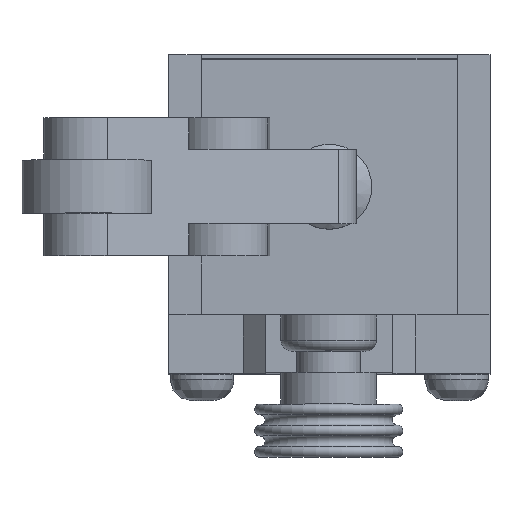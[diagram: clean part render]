
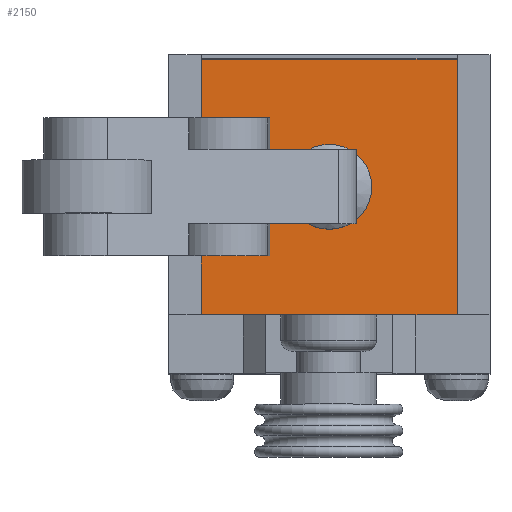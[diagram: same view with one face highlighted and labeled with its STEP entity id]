
A CAD part, top view. The second image highlights one B-rep face of the part: STEP entity #2150.
In plain terms, the highlighted planar face has unit normal (0, 0, 1).
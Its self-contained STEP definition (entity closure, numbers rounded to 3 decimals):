
#1687=CARTESIAN_POINT('',(5.605,6.05,67.));
#1688=VERTEX_POINT('',#1687);
#1689=CARTESIAN_POINT('',(14.395,6.05,67.));
#1690=VERTEX_POINT('',#1689);
#1691=CARTESIAN_POINT('',(5.605,6.05,67.));
#1692=DIRECTION('',(1.0,0.0,0.0));
#1693=VECTOR('',#1692,8.789);
#1694=LINE('',#1691,#1693);
#1695=EDGE_CURVE('',#1688,#1690,#1694,.T.);
#1739=CARTESIAN_POINT('',(14.395,-0.95,67.));
#1740=VERTEX_POINT('',#1739);
#1747=CARTESIAN_POINT('',(5.605,-0.95,67.));
#1748=VERTEX_POINT('',#1747);
#1749=CARTESIAN_POINT('',(14.395,-0.95,67.));
#1750=DIRECTION('',(-1.0,0.0,0.0));
#1751=VECTOR('',#1750,8.789);
#1752=LINE('',#1749,#1751);
#1753=EDGE_CURVE('',#1740,#1748,#1752,.T.);
#1835=CARTESIAN_POINT('',(5.605,9.05,67.));
#1836=VERTEX_POINT('',#1835);
#1843=CARTESIAN_POINT('',(5.605,6.05,67.));
#1844=DIRECTION('',(0.0,1.0,0.0));
#1845=VECTOR('',#1844,3.);
#1846=LINE('',#1843,#1845);
#1847=EDGE_CURVE('',#1688,#1836,#1846,.T.);
#1858=CARTESIAN_POINT('',(5.605,-3.95,67.));
#1859=VERTEX_POINT('',#1858);
#1860=CARTESIAN_POINT('',(5.605,-3.95,67.));
#1861=DIRECTION('',(0.0,1.0,0.0));
#1862=VECTOR('',#1861,3.);
#1863=LINE('',#1860,#1862);
#1864=EDGE_CURVE('',#1859,#1748,#1863,.T.);
#1892=CARTESIAN_POINT('',(4.0,2.55,67.));
#1893=VERTEX_POINT('',#1892);
#1894=CARTESIAN_POINT('',(0.0,2.55,67.));
#1895=DIRECTION('',(0.0,0.0,-1.0));
#1896=DIRECTION('',(-1.0,0.0,0.0));
#1897=AXIS2_PLACEMENT_3D('',#1894,#1895,#1896);
#1898=CIRCLE('',#1897,4.0);
#1899=EDGE_CURVE('',#1893,#1893,#1898,.T.);
#1949=CARTESIAN_POINT('',(12.05,9.05,67.));
#1950=VERTEX_POINT('',#1949);
#1957=CARTESIAN_POINT('',(5.605,9.05,67.));
#1958=DIRECTION('',(1.0,0.0,0.0));
#1959=VECTOR('',#1958,6.445);
#1960=LINE('',#1957,#1959);
#1961=EDGE_CURVE('',#1836,#1950,#1960,.T.);
#2016=CARTESIAN_POINT('',(14.395,6.05,67.));
#2017=DIRECTION('',(0.0,-1.0,0.0));
#2018=VECTOR('',#2017,7.);
#2019=LINE('',#2016,#2018);
#2020=EDGE_CURVE('',#1690,#1740,#2019,.T.);
#2073=CARTESIAN_POINT('',(12.05,-3.95,67.));
#2074=VERTEX_POINT('',#2073);
#2075=CARTESIAN_POINT('',(12.05,-3.95,67.));
#2076=DIRECTION('',(-1.0,0.0,0.0));
#2077=VECTOR('',#2076,6.445);
#2078=LINE('',#2075,#2077);
#2079=EDGE_CURVE('',#2074,#1859,#2078,.T.);
#2095=CARTESIAN_POINT('',(0.,2.55,67.));
#2096=DIRECTION('',(0.0,0.0,1.0));
#2097=DIRECTION('',(1.0,0.0,0.0));
#2098=AXIS2_PLACEMENT_3D('',#2095,#2096,#2097);
#2099=PLANE('',#2098);
#2100=ORIENTED_EDGE('',*,*,#2079,.T.);
#2101=ORIENTED_EDGE('',*,*,#1864,.T.);
#2102=ORIENTED_EDGE('',*,*,#1753,.F.);
#2103=ORIENTED_EDGE('',*,*,#2020,.F.);
#2104=ORIENTED_EDGE('',*,*,#1695,.F.);
#2105=ORIENTED_EDGE('',*,*,#1847,.T.);
#2106=ORIENTED_EDGE('',*,*,#1961,.T.);
#2107=CARTESIAN_POINT('',(12.05,14.6,67.));
#2108=VERTEX_POINT('',#2107);
#2109=CARTESIAN_POINT('',(12.05,14.6,67.0));
#2110=DIRECTION('',(0.0,-1.0,0.0));
#2111=VECTOR('',#2110,5.55);
#2112=LINE('',#2109,#2111);
#2113=EDGE_CURVE('',#2108,#1950,#2112,.T.);
#2114=ORIENTED_EDGE('',*,*,#2113,.F.);
#2115=CARTESIAN_POINT('',(-12.05,14.6,67.));
#2116=VERTEX_POINT('',#2115);
#2117=CARTESIAN_POINT('',(-12.05,14.6,67.0));
#2118=DIRECTION('',(1.0,0.0,0.0));
#2119=VECTOR('',#2118,24.1);
#2120=LINE('',#2117,#2119);
#2121=EDGE_CURVE('',#2116,#2108,#2120,.T.);
#2122=ORIENTED_EDGE('',*,*,#2121,.F.);
#2123=CARTESIAN_POINT('',(-12.05,-9.5,67.));
#2124=VERTEX_POINT('',#2123);
#2125=CARTESIAN_POINT('',(-12.05,-9.5,67.0));
#2126=DIRECTION('',(0.0,1.0,0.0));
#2127=VECTOR('',#2126,24.1);
#2128=LINE('',#2125,#2127);
#2129=EDGE_CURVE('',#2124,#2116,#2128,.T.);
#2130=ORIENTED_EDGE('',*,*,#2129,.F.);
#2131=CARTESIAN_POINT('',(12.05,-9.5,67.));
#2132=VERTEX_POINT('',#2131);
#2133=CARTESIAN_POINT('',(12.05,-9.5,67.0));
#2134=DIRECTION('',(-1.0,0.0,0.0));
#2135=VECTOR('',#2134,24.1);
#2136=LINE('',#2133,#2135);
#2137=EDGE_CURVE('',#2132,#2124,#2136,.T.);
#2138=ORIENTED_EDGE('',*,*,#2137,.F.);
#2139=CARTESIAN_POINT('',(12.05,-3.95,67.0));
#2140=DIRECTION('',(0.0,-1.0,0.0));
#2141=VECTOR('',#2140,5.55);
#2142=LINE('',#2139,#2141);
#2143=EDGE_CURVE('',#2074,#2132,#2142,.T.);
#2144=ORIENTED_EDGE('',*,*,#2143,.F.);
#2145=EDGE_LOOP('',(#2100,#2101,#2102,#2103,#2104,#2105,#2106,#2114,#2122,#2130,#2138,#2144));
#2146=FACE_OUTER_BOUND('',#2145,.T.);
#2147=ORIENTED_EDGE('',*,*,#1899,.T.);
#2148=EDGE_LOOP('',(#2147));
#2149=FACE_BOUND('',#2148,.T.);
#2150=ADVANCED_FACE('',(#2146,#2149),#2099,.T.);
